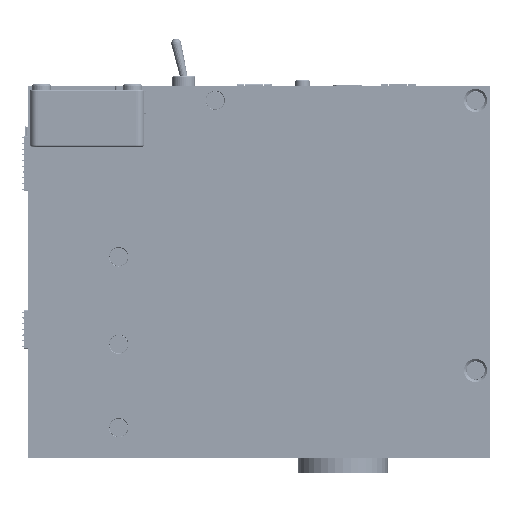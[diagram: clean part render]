
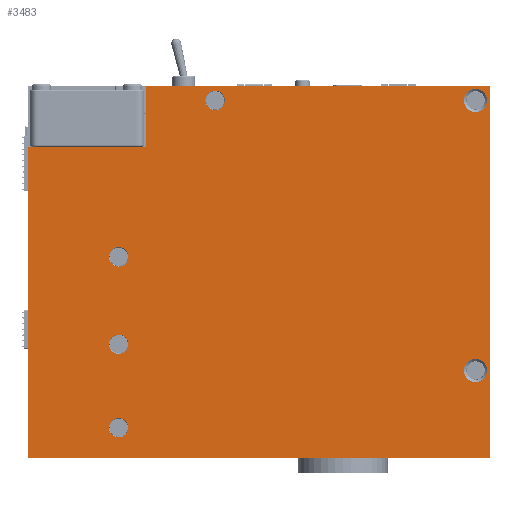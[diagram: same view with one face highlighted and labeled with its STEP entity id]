
A CAD part, front view. The second image highlights one B-rep face of the part: STEP entity #3483.
In plain terms, the highlighted planar face has unit normal (0, -1, 0).
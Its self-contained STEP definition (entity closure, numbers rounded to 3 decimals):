
#2=CARTESIAN_POINT('',(-72.39,0.,14.19));
#3=DIRECTION('',(0.,1.,0.));
#4=DIRECTION('',(0.,0.,1.));
#5=AXIS2_PLACEMENT_3D('',#2,#3,#4);
#7=CARTESIAN_POINT('',(-72.39,0.,14.19));
#8=DIRECTION('',(0.,1.,0.));
#9=DIRECTION('',(0.,0.,-1.));
#10=AXIS2_PLACEMENT_3D('',#7,#8,#9);
#12=CARTESIAN_POINT('',(-3.81,0.,14.19));
#13=DIRECTION('',(0.,1.,0.));
#14=DIRECTION('',(0.,0.,-1.));
#15=AXIS2_PLACEMENT_3D('',#12,#13,#14);
#17=CARTESIAN_POINT('',(-3.81,0.,14.19));
#18=DIRECTION('',(0.,1.,0.));
#19=DIRECTION('',(0.,0.,1.));
#20=AXIS2_PLACEMENT_3D('',#17,#18,#19);
#22=CARTESIAN_POINT('',(-3.81,0.,-56.93));
#23=DIRECTION('',(0.,1.,0.));
#24=DIRECTION('',(0.,0.,1.));
#25=AXIS2_PLACEMENT_3D('',#22,#23,#24);
#27=CARTESIAN_POINT('',(-3.81,0.,-56.93));
#28=DIRECTION('',(0.,1.,0.));
#29=DIRECTION('',(0.,0.,-1.));
#30=AXIS2_PLACEMENT_3D('',#27,#28,#29);
#32=CARTESIAN_POINT('',(-97.79,0.,-72.));
#33=DIRECTION('',(0.,1.,0.));
#34=DIRECTION('',(-1.,0.,0.));
#35=AXIS2_PLACEMENT_3D('',#32,#33,#34);
#37=CARTESIAN_POINT('',(-97.79,0.,-72.));
#38=DIRECTION('',(0.,1.,0.));
#39=DIRECTION('',(1.,0.,0.));
#40=AXIS2_PLACEMENT_3D('',#37,#38,#39);
#42=CARTESIAN_POINT('',(-97.79,0.,-50.));
#43=DIRECTION('',(0.,1.,0.));
#44=DIRECTION('',(-1.,0.,0.));
#45=AXIS2_PLACEMENT_3D('',#42,#43,#44);
#47=CARTESIAN_POINT('',(-97.79,0.,-50.));
#48=DIRECTION('',(0.,1.,0.));
#49=DIRECTION('',(1.,0.,0.));
#50=AXIS2_PLACEMENT_3D('',#47,#48,#49);
#52=CARTESIAN_POINT('',(-97.79,0.,-27.));
#53=DIRECTION('',(0.,1.,0.));
#54=DIRECTION('',(-1.,0.,0.));
#55=AXIS2_PLACEMENT_3D('',#52,#53,#54);
#57=CARTESIAN_POINT('',(-97.79,0.,-27.));
#58=DIRECTION('',(0.,1.,0.));
#59=DIRECTION('',(1.,0.,0.));
#60=AXIS2_PLACEMENT_3D('',#57,#58,#59);
#62=DIRECTION('',(0.,0.,-1.));
#63=VECTOR('',#62,16.);
#64=CARTESIAN_POINT('',(-90.6,0.,18.));
#65=LINE('',#64,#63);
#66=DIRECTION('',(1.,0.,0.));
#67=VECTOR('',#66,90.6);
#68=CARTESIAN_POINT('',(-90.6,0.,18.));
#69=LINE('',#68,#67);
#70=DIRECTION('',(0.,0.,-1.));
#71=VECTOR('',#70,98.);
#72=CARTESIAN_POINT('',(0.,0.,18.));
#73=LINE('',#72,#71);
#74=DIRECTION('',(-1.,0.,0.));
#75=VECTOR('',#74,121.6);
#76=CARTESIAN_POINT('',(0.,0.,-80.));
#77=LINE('',#76,#75);
#78=DIRECTION('',(0.,0.,1.));
#79=VECTOR('',#78,82.);
#80=CARTESIAN_POINT('',(-121.6,0.,-80.));
#81=LINE('',#80,#79);
#82=DIRECTION('',(1.,0.,0.));
#83=VECTOR('',#82,31.);
#84=CARTESIAN_POINT('',(-121.6,0.,2.));
#85=LINE('',#84,#83);
#3174=CARTESIAN_POINT('',(0.,0.,-80.));
#3175=CARTESIAN_POINT('',(-121.6,0.,-80.));
#3176=VERTEX_POINT('',#3174);
#3177=VERTEX_POINT('',#3175);
#3178=CARTESIAN_POINT('',(0.,0.,18.));
#3179=VERTEX_POINT('',#3178);
#3198=CARTESIAN_POINT('',(-72.39,0.,16.74));
#3199=CARTESIAN_POINT('',(-72.39,0.,11.64));
#3200=VERTEX_POINT('',#3198);
#3201=VERTEX_POINT('',#3199);
#3206=CARTESIAN_POINT('',(-3.81,0.,11.14));
#3207=CARTESIAN_POINT('',(-3.81,0.,17.24));
#3208=VERTEX_POINT('',#3206);
#3209=VERTEX_POINT('',#3207);
#3214=CARTESIAN_POINT('',(-3.81,0.,-53.88));
#3215=CARTESIAN_POINT('',(-3.81,0.,-59.98));
#3216=VERTEX_POINT('',#3214);
#3217=VERTEX_POINT('',#3215);
#3234=CARTESIAN_POINT('',(-100.34,0.,-72.));
#3235=CARTESIAN_POINT('',(-95.24,0.,-72.));
#3236=VERTEX_POINT('',#3234);
#3237=VERTEX_POINT('',#3235);
#3242=CARTESIAN_POINT('',(-100.34,0.,-50.));
#3243=CARTESIAN_POINT('',(-95.24,0.,-50.));
#3244=VERTEX_POINT('',#3242);
#3245=VERTEX_POINT('',#3243);
#3250=CARTESIAN_POINT('',(-100.34,0.,-27.));
#3251=CARTESIAN_POINT('',(-95.24,0.,-27.));
#3252=VERTEX_POINT('',#3250);
#3253=VERTEX_POINT('',#3251);
#3258=CARTESIAN_POINT('',(-90.6,0.,18.));
#3259=CARTESIAN_POINT('',(-90.6,0.,2.));
#3260=VERTEX_POINT('',#3258);
#3261=VERTEX_POINT('',#3259);
#3262=CARTESIAN_POINT('',(-121.6,0.,2.));
#3263=VERTEX_POINT('',#3262);
#3428=CARTESIAN_POINT('',(0.,0.,0.));
#3429=DIRECTION('',(0.,1.,0.));
#3430=DIRECTION('',(0.,0.,1.));
#3431=AXIS2_PLACEMENT_3D('',#3428,#3429,#3430);
#3432=PLANE('',#3431);
#3434=ORIENTED_EDGE('',*,*,#3433,.F.);
#3436=ORIENTED_EDGE('',*,*,#3435,.T.);
#3438=ORIENTED_EDGE('',*,*,#3437,.T.);
#3440=ORIENTED_EDGE('',*,*,#3439,.T.);
#3442=ORIENTED_EDGE('',*,*,#3441,.T.);
#3444=ORIENTED_EDGE('',*,*,#3443,.T.);
#3445=EDGE_LOOP('',(#3434,#3436,#3438,#3440,#3442,#3444));
#3446=FACE_OUTER_BOUND('',#3445,.F.);
#3448=ORIENTED_EDGE('',*,*,#3447,.F.);
#3450=ORIENTED_EDGE('',*,*,#3449,.F.);
#3451=EDGE_LOOP('',(#3448,#3450));
#3452=FACE_BOUND('',#3451,.F.);
#3454=ORIENTED_EDGE('',*,*,#3453,.F.);
#3456=ORIENTED_EDGE('',*,*,#3455,.F.);
#3457=EDGE_LOOP('',(#3454,#3456));
#3458=FACE_BOUND('',#3457,.F.);
#3460=ORIENTED_EDGE('',*,*,#3459,.F.);
#3462=ORIENTED_EDGE('',*,*,#3461,.F.);
#3463=EDGE_LOOP('',(#3460,#3462));
#3464=FACE_BOUND('',#3463,.F.);
#3466=ORIENTED_EDGE('',*,*,#3465,.F.);
#3468=ORIENTED_EDGE('',*,*,#3467,.F.);
#3469=EDGE_LOOP('',(#3466,#3468));
#3470=FACE_BOUND('',#3469,.F.);
#3472=ORIENTED_EDGE('',*,*,#3471,.F.);
#3474=ORIENTED_EDGE('',*,*,#3473,.F.);
#3475=EDGE_LOOP('',(#3472,#3474));
#3476=FACE_BOUND('',#3475,.F.);
#3478=ORIENTED_EDGE('',*,*,#3477,.F.);
#3480=ORIENTED_EDGE('',*,*,#3479,.F.);
#3481=EDGE_LOOP('',(#3478,#3480));
#3482=FACE_BOUND('',#3481,.F.);
#6=CIRCLE('',#5,2.55);
#11=CIRCLE('',#10,2.55);
#16=CIRCLE('',#15,3.05);
#21=CIRCLE('',#20,3.05);
#26=CIRCLE('',#25,3.05);
#31=CIRCLE('',#30,3.05);
#36=CIRCLE('',#35,2.55);
#41=CIRCLE('',#40,2.55);
#46=CIRCLE('',#45,2.55);
#51=CIRCLE('',#50,2.55);
#56=CIRCLE('',#55,2.55);
#61=CIRCLE('',#60,2.55);
#3433=EDGE_CURVE('',#3260,#3261,#65,.T.);
#3435=EDGE_CURVE('',#3260,#3179,#69,.T.);
#3437=EDGE_CURVE('',#3179,#3176,#73,.T.);
#3439=EDGE_CURVE('',#3176,#3177,#77,.T.);
#3441=EDGE_CURVE('',#3177,#3263,#81,.T.);
#3443=EDGE_CURVE('',#3263,#3261,#85,.T.);
#3447=EDGE_CURVE('',#3208,#3209,#16,.T.);
#3449=EDGE_CURVE('',#3209,#3208,#21,.T.);
#3453=EDGE_CURVE('',#3216,#3217,#26,.T.);
#3455=EDGE_CURVE('',#3217,#3216,#31,.T.);
#3459=EDGE_CURVE('',#3236,#3237,#36,.T.);
#3461=EDGE_CURVE('',#3237,#3236,#41,.T.);
#3465=EDGE_CURVE('',#3244,#3245,#46,.T.);
#3467=EDGE_CURVE('',#3245,#3244,#51,.T.);
#3471=EDGE_CURVE('',#3252,#3253,#56,.T.);
#3473=EDGE_CURVE('',#3253,#3252,#61,.T.);
#3477=EDGE_CURVE('',#3200,#3201,#6,.T.);
#3479=EDGE_CURVE('',#3201,#3200,#11,.T.);
#3483=ADVANCED_FACE('',(#3446,#3452,#3458,#3464,#3470,#3476,#3482),#3432,.F.);
